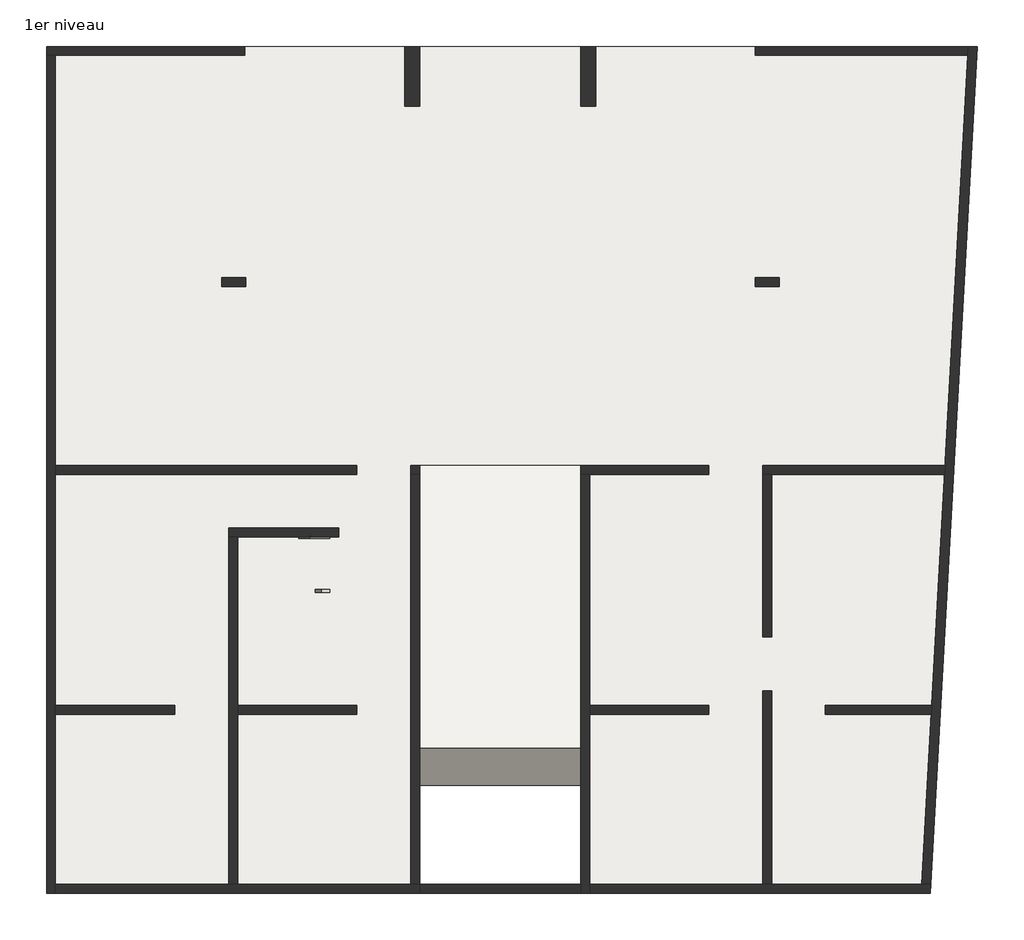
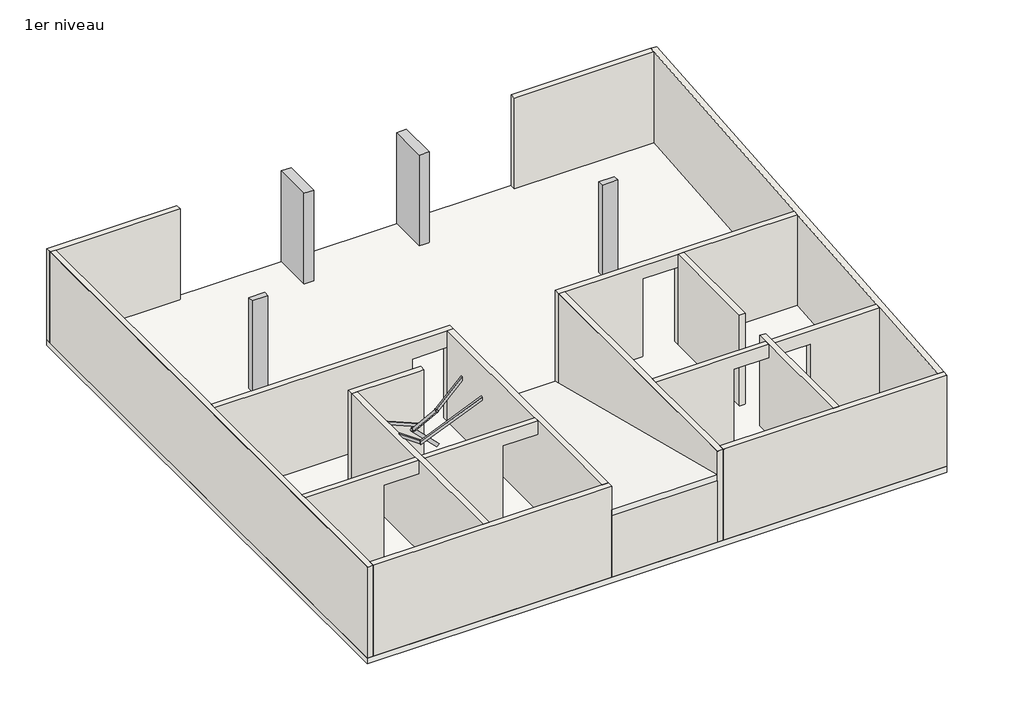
# One storey, incomplete: 20 walls, 4 columns, 2 railings, 2 slabs.
"""IFC4 building model written with IfcOpenShell, lengths in millimetres."""

from ifc_helpers import new_model, si_unit, frame, origin, place, context, project, spatial, polyline, outline, extrude, faceted_brep, transform, mapped, element, save
from components import railing_900_mm_58355f22, railing_900_mm_3c93f63a

model = new_model("IFC4")

# Units and contexts
model_context = context("Model", 3, world=origin())
ifc_project = project(units=[si_unit("LENGTHUNIT", "METRE", prefix="MILLI")], contexts=[model_context])

# Site, building, storey
site = spatial("IfcSite", under=ifc_project)
building = spatial("IfcBuilding", under=site)
storey = spatial("IfcBuildingStorey", under=building, Name="1er niveau", Elevation=-2625.0)

# Columns
placement = place(None, origin())
element("IfcColumn", 1, ObjectType="Béton - Rectangulaire - Poteau : 25 x 100", at=placement, inside=storey, context=model_context, shape_type="SweptSolid", body=[
    extrude(outline(polyline([(1919.9771325, 6266.7111972), (1919.9771325, 5266.7111972), (1669.9771325, 5266.7111972), (1669.9771325, 6266.7111972), (1919.9771325, 6266.7111972)])), frame((0.0, 0.0, -2625.0), z_axis=(0.0, 0.0, 1.0), x_axis=(1.0, 0.0, 0.0)), (0.0, 0.0, 1.0), 2455.0),
])
element("IfcColumn", 2, ObjectType="Béton - Rectangulaire - Poteau : 25 x 100", at=placement, inside=storey, context=model_context, shape_type="SweptSolid", body=[
    extrude(outline(polyline([(-1030.0228675, 6266.7111972), (-1030.0228675, 5266.7111972), (-1280.0228675, 5266.7111972), (-1280.0228675, 6266.7111972), (-1030.0228675, 6266.7111972)])), frame((0.0, 0.0, -2625.0), z_axis=(0.0, 0.0, 1.0), x_axis=(1.0, 0.0, 0.0)), (0.0, 0.0, 1.0), 2455.0),
])
element("IfcColumn", 3, ObjectType="Béton - Rectangulaire - Poteau : 40 x 15", at=placement, inside=storey, context=model_context, shape_type="SweptSolid", body=[
    extrude(outline(polyline([(-3945.3545284, 2391.7111972), (-3945.3545284, 2241.7111972), (-4345.3545284, 2241.7111972), (-4345.3545284, 2391.7111972), (-3945.3545284, 2391.7111972)])), frame((0.0, 0.0, -2625.0), z_axis=(0.0, 0.0, 1.0), x_axis=(1.0, 0.0, 0.0)), (0.0, 0.0, 1.0), 2455.0),
])
element("IfcColumn", 4, ObjectType="Béton - Rectangulaire - Poteau : 40 x 15", at=placement, inside=storey, context=model_context, shape_type="SweptSolid", body=[
    extrude(outline(polyline([(4995.5726427, 2391.7111972), (4995.5726427, 2241.7111972), (4595.5726427, 2241.7111972), (4595.5726427, 2391.7111972), (4995.5726427, 2391.7111972)])), frame((0.0, 0.0, -2625.0), z_axis=(0.0, 0.0, 1.0), x_axis=(1.0, 0.0, 0.0)), (0.0, 0.0, 1.0), 2455.0),
])

# Railings
railing_900_mm_shape = railing_900_mm_58355f22(model_context)
element("IfcRailing", 5, ObjectType="900 mm", at=placement, inside=storey, context=model_context, shape_type="MappedRepresentation", body=[
    mapped(railing_900_mm_shape, transform((0.0, 0.0, 0.0), x_axis=(1.0, 0.0, 0.0), y_axis=(0.0, 1.0, 0.0), z_axis=(0.0, 0.0, 1.0))),
])
railing_900_mm_2_shape = railing_900_mm_3c93f63a(model_context)
element("IfcRailing", 6, ObjectType="900 mm", at=placement, inside=storey, context=model_context, shape_type="MappedRepresentation", body=[
    mapped(railing_900_mm_2_shape, transform((0.0, 0.0, 0.0), x_axis=(1.0, 0.0, 0.0), y_axis=(0.0, 1.0, 0.0), z_axis=(0.0, 0.0, 1.0))),
])

# Slabs
element("IfcSlab", 7, ObjectType="Générique  160 mm", at=placement, inside=storey, context=model_context, shape_type="Brep", body=[
    faceted_brep([(8319.9771325, 6266.7111972, -2785.0), (7531.5087449, -7931.4125381, -2785.0), (-7280.0228675, -7931.4125381, -2785.0), (-7280.0228675, 6266.7111972, -2785.0), (-1030.0228675, -7783.2888028, -2785.0), (1669.9771325, -7783.2888028, -2785.0), (1669.9771325, -908.2888028, -2785.0), (-1030.0228675, -908.2888028, -2785.0), (8319.9771325, 6266.7111972, -2625.0), (1919.9771325, 6266.7111972, -2625.0), (1669.9771325, 6266.7111972, -2625.0), (-1030.0228675, 6266.7111972, -2625.0), (-1280.0228675, 6266.7111972, -2625.0), (-7280.0228675, 6266.7111972, -2625.0), (-7280.0228675, -7931.4125381, -2625.0), (7531.5087449, -7931.4125381, -2625.0), (-1030.0228675, -7783.2888028, -2625.0), (-1030.0228675, -908.2888028, -2625.0), (1669.9771325, -908.2888028, -2625.0), (1669.9771325, -7783.2888028, -2625.0)], [[[0, 1, 2, 3], [4, 5, 6, 7]], [[8, 9, 10, 11, 12, 13, 14, 15], [16, 17, 18, 19]], [[1, 0, 8, 15]], [[2, 1, 15, 14]], [[3, 2, 14, 13]], [[0, 3, 13, 12, 11, 10, 9, 8]], [[5, 4, 16, 19]], [[6, 5, 19, 18]], [[7, 6, 18, 17]], [[4, 7, 17, 16]]]),
])
element("IfcSlab", 8, ObjectType="Générique  160 mm", at=placement, inside=storey, context=model_context, shape_type="SweptSolid", body=[
    extrude(outline(polyline([(-7933.2888028, -965.0), (-7933.2888028, -805.0), (-758.2888028, -2625.0), (-758.2888028, -2785.0), (-7933.2888028, -965.0)])), frame((-1030.0228675, 0.0, 0.0), z_axis=(1.0, 0.0, 0.0), x_axis=(0.0, 1.0, 0.0)), (0.0, 0.0, 1.0), 2700.0),
])

# Walls
element("IfcWall", 9, ObjectType="Générique - 150 mm", at=placement, inside=storey, context=model_context, shape_type="Brep", body=[
    faceted_brep([(-7130.0228675, -908.2888028, -170.0), (-7130.0228675, -908.2888028, -2625.0), (-2080.0228675, -908.2888028, -2625.0), (-2080.0228675, -908.2888028, -625.0), (-1180.0228675, -908.2888028, -625.0), (-1180.0228675, -908.2888028, -2625.0), (-1030.0228675, -908.2888028, -2625.0), (-1030.0228675, -908.2888028, -170.0), (-1180.0228675, -908.2888028, -170.0), (-7130.0228675, -758.2888028, -2625.0), (-7130.0228675, -758.2888028, -170.0), (-1030.0228675, -758.2888028, -170.0), (-1030.0228675, -758.2888028, -2625.0), (-1180.0228675, -758.2888028, -2625.0), (-1180.0228675, -758.2888028, -625.0), (-2080.0228675, -758.2888028, -625.0), (-2080.0228675, -758.2888028, -2625.0)], [[[0, 1, 2, 3, 4, 5, 6, 7, 8]], [[9, 10, 11, 12, 13, 14, 15, 16]], [[1, 9, 16, 2]], [[12, 6, 5, 13]], [[1, 0, 10, 9]], [[4, 14, 13, 5]], [[15, 3, 2, 16]], [[14, 4, 3, 15]], [[7, 6, 12, 11]], [[0, 8, 7, 11, 10]]]),
])
element("IfcWall", 10, ObjectType="Générique - 150 mm", at=placement, inside=storey, context=model_context, shape_type="Brep", body=[
    faceted_brep([(-7280.0228675, 6116.7111972, -2625.0), (-7130.0228675, 6116.7111972, -2625.0), (-3955.0228675, 6116.7111972, -2625.0), (-3955.0228675, 6116.7111972, -170.0), (-7130.0228675, 6116.7111972, -170.0), (-7270.0228675, 6116.7111972, -170.0), (-7280.0228675, 6116.7111972, -170.0), (-7280.0228675, 6266.7111972, -2625.0), (-7280.0228675, 6266.7111972, -170.0), (-7270.0228675, 6266.7111972, -170.0), (-3955.0228675, 6266.7111972, -170.0), (-3955.0228675, 6266.7111972, -2625.0)], [[[0, 1, 2, 3, 4, 5, 6]], [[7, 8, 9, 10, 11]], [[2, 1, 0, 7, 11]], [[3, 2, 11, 10]], [[0, 6, 8, 7]], [[6, 5, 9, 8]], [[5, 4, 3, 10, 9]]]),
])
element("IfcWall", 11, ObjectType="Générique - 150 mm", at=placement, inside=storey, context=model_context, shape_type="Brep", body=[
    faceted_brep([(-3955.0228675, 6266.7111972, -2625.0), (-7280.0228675, 6266.7111972, -2625.0), (-7280.0228675, 6266.7111972, -170.0), (-7270.0228675, 6266.7111972, -170.0), (-3955.0228675, 6266.7111972, -170.0), (-3955.0228675, 6116.7111972, -2625.0), (-3955.0228675, 6116.7111972, -170.0), (-7130.0228675, 6116.7111972, -170.0), (-7270.0228675, 6116.7111972, -170.0), (-7280.0228675, 6116.7111972, -170.0), (-7280.0228675, 6116.7111972, -2625.0), (-7130.0228675, 6116.7111972, -2625.0)], [[[0, 1, 2, 3, 4]], [[5, 6, 7, 8, 9, 10, 11]], [[1, 0, 5, 11, 10]], [[0, 4, 6, 5]], [[2, 1, 10, 9]], [[3, 2, 9, 8]], [[4, 3, 8, 7, 6]]]),
])
element("IfcWall", 12, ObjectType="Générique - 150 mm", at=placement, inside=storey, context=model_context, shape_type="Brep", body=[
    faceted_brep([(-7280.0228675, 6116.7111972, -2625.0), (-7280.0228675, -7933.2888028, -2625.0), (-7280.0228675, -7933.2888028, -170.0), (-7280.0228675, 6116.7111972, -170.0), (-7130.0228675, 6116.7111972, -2625.0), (-7130.0228675, 6116.7111972, -170.0), (-7130.0228675, -758.2888028, -170.0), (-7130.0228675, -908.2888028, -170.0), (-7130.0228675, -4783.2888028, -170.0), (-7130.0228675, -4933.2888028, -170.0), (-7130.0228675, -7783.2888028, -170.0), (-7130.0228675, -7933.2888028, -170.0), (-7130.0228675, -7933.2888028, -2625.0), (-7130.0228675, -7783.2888028, -2625.0), (-7130.0228675, -4933.2888028, -2625.0), (-7130.0228675, -4783.2888028, -2625.0), (-7130.0228675, -908.2888028, -2625.0), (-7130.0228675, -758.2888028, -2625.0), (-7270.0228675, 6116.7111972, -170.0), (-7270.0228675, -7933.2888028, -170.0)], [[[0, 1, 2, 3]], [[4, 5, 6, 7, 8, 9, 10, 11, 12, 13, 14, 15, 16, 17]], [[1, 0, 4, 17, 16, 15, 14, 13, 12]], [[0, 3, 18, 5, 4]], [[2, 1, 12, 11, 19]], [[3, 2, 19, 18]], [[19, 11, 10, 9, 8, 7, 6, 5, 18]]]),
])
element("IfcWall", 13, ObjectType="Générique - 150 mm", at=placement, inside=storey, context=model_context, shape_type="Brep", body=[
    faceted_brep([(-7130.0228675, -7933.2888028, -2625.0), (-1030.0228675, -7933.2888028, -2625.0), (-1030.0228675, -7933.2888028, -970.067174), (-1030.0228675, -7933.2888028, -170.0), (-7130.0228675, -7933.2888028, -170.0), (-7130.0228675, -7783.2888028, -2625.0), (-7130.0228675, -7783.2888028, -170.0), (-4230.0228675, -7783.2888028, -170.0), (-4080.0228675, -7783.2888028, -170.0), (-1180.0228675, -7783.2888028, -170.0), (-1030.0228675, -7783.2888028, -170.0), (-1030.0228675, -7783.2888028, -970.067174), (-1030.0228675, -7783.2888028, -2625.0), (-1180.0228675, -7783.2888028, -2625.0), (-4080.0228675, -7783.2888028, -2625.0), (-4230.0228675, -7783.2888028, -2625.0)], [[[0, 1, 2, 3, 4]], [[5, 6, 7, 8, 9, 10, 11, 12, 13, 14, 15]], [[1, 0, 5, 15, 14, 13, 12]], [[0, 4, 6, 5]], [[1, 12, 11, 10, 3, 2]], [[4, 3, 10, 9, 8, 7, 6]]]),
])
element("IfcWall", 14, ObjectType="Générique - 150 mm", at=placement, inside=storey, context=model_context, shape_type="Brep", body=[
    faceted_brep([(-1030.0228675, -7783.2888028, -170.0), (-1030.0228675, -7783.2888028, -2625.0), (-1030.0228675, -908.2888028, -2625.0), (-1030.0228675, -908.2888028, -170.0), (-1030.0228675, -911.4125381, -170.0), (-1180.0228675, -7783.2888028, -2625.0), (-1180.0228675, -7783.2888028, -170.0), (-1180.0228675, -4933.2888028, -170.0), (-1180.0228675, -4783.2888028, -170.0), (-1180.0228675, -908.2888028, -170.0), (-1180.0228675, -908.2888028, -625.0), (-1180.0228675, -908.2888028, -2625.0)], [[[0, 1, 2, 3, 4]], [[5, 6, 7, 8, 9, 10, 11]], [[2, 1, 5, 11]], [[0, 6, 5, 1]], [[3, 2, 11, 10, 9]], [[0, 4, 3, 9, 8, 7, 6]]]),
])
element("IfcWall", 15, ObjectType="Générique - 150 mm", at=placement, inside=storey, context=model_context, shape_type="Brep", body=[
    faceted_brep([(-2380.0228675, -1808.2888028, -2625.0), (-4230.0228675, -1808.2888028, -2625.0), (-4230.0228675, -1808.2888028, -170.0), (-2380.0228675, -1808.2888028, -170.0), (-2380.0228675, -1958.2888028, -2625.0), (-2380.0228675, -1958.2888028, -170.0), (-2530.0228675, -1958.2888028, -170.0), (-4080.0228675, -1958.2888028, -170.0), (-4230.0228675, -1958.2888028, -170.0), (-4230.0228675, -1958.2888028, -2625.0), (-4080.0228675, -1958.2888028, -2625.0)], [[[0, 1, 2, 3]], [[4, 5, 6, 7, 8, 9, 10]], [[1, 0, 4, 10, 9]], [[0, 3, 5, 4]], [[2, 1, 9, 8]], [[3, 2, 8, 7, 6, 5]]]),
])
element("IfcWall", 16, ObjectType="Générique - 150 mm", at=placement, inside=storey, context=model_context, shape_type="Brep", body=[
    faceted_brep([(-4230.0228675, -1958.2888028, -2625.0), (-4230.0228675, -7783.2888028, -2625.0), (-4230.0228675, -7783.2888028, -170.0), (-4230.0228675, -4933.2888028, -170.0), (-4230.0228675, -4783.2888028, -170.0), (-4230.0228675, -1958.2888028, -170.0), (-4080.0228675, -1958.2888028, -2625.0), (-4080.0228675, -1958.2888028, -170.0), (-4080.0228675, -4783.2888028, -170.0), (-4080.0228675, -4933.2888028, -170.0), (-4080.0228675, -7783.2888028, -170.0), (-4080.0228675, -7783.2888028, -2625.0), (-4080.0228675, -4933.2888028, -2625.0), (-4080.0228675, -4783.2888028, -2625.0)], [[[0, 1, 2, 3, 4, 5]], [[6, 7, 8, 9, 10, 11, 12, 13]], [[1, 0, 6, 13, 12, 11]], [[0, 5, 7, 6]], [[2, 1, 11, 10]], [[5, 4, 3, 2, 10, 9, 8, 7]]]),
])
element("IfcWall", 17, ObjectType="Générique - 150 mm", at=placement, inside=storey, context=model_context, shape_type="SweptSolid", body=[
    extrude(outline(polyline([(-170.0, -7130.0228675), (-2625.0, -7130.0228675), (-2625.0, -5130.0228675), (-525.0, -5130.0228675), (-525.0, -4230.0228675), (-170.0, -4230.0228675), (-170.0, -7130.0228675)])), frame((0.0, -4933.2888028, 0.0), z_axis=(0.0, 1.0, 0.0), x_axis=(0.0, 0.0, 1.0)), (0.0, 0.0, 1.0), 150.0),
])
element("IfcWall", 18, ObjectType="Générique - 150 mm", at=placement, inside=storey, context=model_context, shape_type="Brep", body=[
    faceted_brep([(-4080.0228675, -4933.2888028, -170.0), (-4080.0228675, -4933.2888028, -2625.0), (-2080.0228675, -4933.2888028, -2625.0), (-2080.0228675, -4933.2888028, -525.0), (-1180.0228675, -4933.2888028, -525.0), (-1180.0228675, -4933.2888028, -170.0), (-4080.0228675, -4783.2888028, -2625.0), (-4080.0228675, -4783.2888028, -170.0), (-2530.0228675, -4783.2888028, -170.0), (-1180.0228675, -4783.2888028, -170.0), (-1180.0228675, -4783.2888028, -525.0), (-2080.0228675, -4783.2888028, -525.0), (-2080.0228675, -4783.2888028, -2625.0)], [[[0, 1, 2, 3, 4, 5]], [[6, 7, 8, 9, 10, 11, 12]], [[1, 6, 12, 2]], [[1, 0, 7, 6]], [[9, 5, 4, 10]], [[11, 3, 2, 12]], [[3, 11, 10, 4]], [[7, 0, 5, 9, 8]]]),
])
element("IfcWall", 19, ObjectType="Générique - 150 mm", at=placement, inside=storey, context=model_context, shape_type="Brep", body=[
    faceted_brep([(4720.6357207, -908.2888028, -525.0), (4720.6357207, -908.2888028, -2625.0), (4870.6357207, -908.2888028, -2625.0), (7771.2943089, -908.2888028, -2625.0), (7771.2943089, -908.2888028, -170.0), (4870.6357207, -908.2888028, -170.0), (4720.6357207, -908.2888028, -170.0), (1819.9771325, -908.2888028, -170.0), (1669.9771325, -908.2888028, -170.0), (1669.9771325, -908.2888028, -2625.0), (1819.9771325, -908.2888028, -2625.0), (3820.6357207, -908.2888028, -2625.0), (3820.6357207, -908.2888028, -525.0), (7779.6243009, -758.2888028, -2625.0), (4720.6357207, -758.2888028, -2625.0), (4720.6357207, -758.2888028, -525.0), (3820.6357207, -758.2888028, -525.0), (3820.6357207, -758.2888028, -2625.0), (1669.9771325, -758.2888028, -2625.0), (1669.9771325, -758.2888028, -170.0), (7779.6243009, -758.2888028, -170.0)], [[[0, 1, 2, 3, 4, 5, 6, 7, 8, 9, 10, 11, 12]], [[13, 14, 15, 16, 17, 18, 19, 20]], [[11, 10, 9, 18, 17]], [[3, 2, 1, 14, 13]], [[9, 8, 19, 18]], [[4, 3, 13, 20]], [[17, 16, 12, 11]], [[15, 14, 1, 0]], [[16, 15, 0, 12]], [[8, 7, 6, 5, 4, 20, 19]]]),
])
element("IfcWall", 20, ObjectType="Générique - 150 mm", at=placement, inside=storey, context=model_context, shape_type="Brep", body=[
    faceted_brep([(1669.9771325, -908.2888028, -2625.0), (1669.9771325, -7783.2888028, -2625.0), (1669.9771325, -7933.2888028, -2625.0), (1669.9771325, -7933.2888028, -970.067174), (1669.9771325, -7933.2888028, -170.0), (1669.9771325, -7931.4125381, -170.0), (1669.9771325, -908.2888028, -170.0), (1819.9771325, -908.2888028, -2625.0), (1819.9771325, -908.2888028, -170.0), (1819.9771325, -4783.2888028, -170.0), (1819.9771325, -4933.2888028, -170.0), (1819.9771325, -7783.2888028, -170.0), (1819.9771325, -7931.4125381, -170.0), (1819.9771325, -7933.2888028, -170.0), (1819.9771325, -7933.2888028, -2625.0), (1819.9771325, -7783.2888028, -2625.0), (1819.9771325, -4933.2888028, -2625.0), (1819.9771325, -4783.2888028, -2625.0), (1671.5087449, -908.2888028, -170.0), (1671.5087449, -7933.2888028, -170.0), (1671.5087449, -7931.4125381, -170.0), (1671.5087449, -911.4125381, -170.0)], [[[0, 1, 2, 3, 4, 5, 6]], [[7, 8, 9, 10, 11, 12, 13, 14, 15, 16, 17]], [[2, 1, 0, 7, 17, 16, 15, 14]], [[0, 6, 18, 8, 7]], [[2, 14, 13, 19, 4, 3]], [[6, 5, 20, 21, 18]], [[19, 13, 12, 20]], [[5, 4, 19, 20]], [[20, 12, 11, 10, 9, 8, 18, 21]]]),
])
element("IfcWall", 21, ObjectType="Générique - 150 mm", at=placement, inside=storey, context=model_context, shape_type="Brep", body=[
    faceted_brep([(1819.9771325, -7933.2888028, -170.0), (1819.9771325, -7933.2888028, -2625.0), (7531.4041314, -7933.2888028, -2625.0), (7531.4041314, -7933.2888028, -170.0), (1819.9771325, -7783.2888028, -2625.0), (1819.9771325, -7783.2888028, -170.0), (4720.5726427, -7783.2888028, -170.0), (4870.5726427, -7783.2888028, -170.0), (7389.5030056, -7783.2888028, -170.0), (7539.7345418, -7783.2888028, -170.0), (7539.7341234, -7783.2888028, -2625.0), (7389.5030056, -7783.2888028, -2625.0), (4870.5726427, -7783.2888028, -2625.0), (4720.5726427, -7783.2888028, -2625.0), (7531.5083278, -7931.4125149, -170.0), (1819.9771325, -7931.4125381, -170.0)], [[[0, 1, 2, 3]], [[4, 5, 6, 7, 8, 9, 10, 11, 12, 13]], [[2, 1, 4, 13, 12, 11, 10]], [[3, 2, 10, 9, 14]], [[0, 15, 5, 4, 1]], [[0, 3, 14, 15]], [[14, 9, 8, 7, 6, 5, 15]]]),
])
element("IfcWall", 22, ObjectType="Générique - 150 mm", at=placement, inside=storey, context=model_context, shape_type="Brep", body=[
    faceted_brep([(7539.7341234, -7783.2888028, -2625.0), (8319.9767141, 6266.7111972, -2625.0), (8319.9767141, 6266.7111972, -170.0), (7539.7341234, -7783.2888028, -170.0), (7389.5030056, -7783.2888028, -2625.0), (7389.5030056, -7783.2888028, -170.0), (7547.772855, -4933.2888028, -170.0), (7556.102847, -4783.2888028, -170.0), (7771.2943089, -908.2888028, -170.0), (7779.6243009, -758.2888028, -170.0), (8161.4156042, 6116.7111972, -170.0), (8169.7455963, 6266.7111972, -170.0), (8169.7455963, 6266.7111972, -2625.0), (8161.4156042, 6116.7111972, -2625.0), (7779.6243009, -758.2888028, -2625.0), (7771.2943089, -908.2888028, -2625.0), (7556.102847, -4783.2888028, -2625.0), (7547.772855, -4933.2888028, -2625.0)], [[[0, 1, 2, 3]], [[4, 5, 6, 7, 8, 9, 10, 11, 12, 13, 14, 15, 16, 17]], [[1, 0, 4, 17, 16, 15, 14, 13, 12]], [[0, 3, 5, 4]], [[2, 1, 12, 11]], [[3, 2, 11, 10, 9, 8, 7, 6, 5]]]),
])
element("IfcWall", 23, ObjectType="Générique - 150 mm", at=placement, inside=storey, context=model_context, shape_type="SweptSolid", body=[
    extrude(outline(polyline([(4595.5726427, 6266.7111972), (8169.7455963, 6266.7111972), (8161.4156042, 6116.7111972), (4595.5726427, 6116.7111972), (4595.5726427, 6266.7111972)])), frame((0.0, 0.0, -2625.0), z_axis=(0.0, 0.0, 1.0), x_axis=(1.0, 0.0, 0.0)), (0.0, 0.0, 1.0), 2455.0),
])
element("IfcWall", 24, ObjectType="Générique - 150 mm", at=placement, inside=storey, context=model_context, shape_type="Brep", body=[
    faceted_brep([(4720.6357207, -908.2888028, -2625.0), (4720.6357207, -3628.2888028, -2625.0), (4720.6357207, -3628.2888028, -170.0), (4720.6357207, -908.2888028, -170.0), (4720.6357207, -908.2888028, -525.0), (4870.6357207, -908.2888028, -2625.0), (4870.6357207, -908.2888028, -170.0), (4870.6357207, -3628.2888028, -170.0), (4870.6357207, -3628.2888028, -2625.0)], [[[0, 1, 2, 3, 4]], [[5, 6, 7, 8]], [[1, 0, 5, 8]], [[2, 1, 8, 7]], [[0, 4, 3, 6, 5]], [[3, 2, 7, 6]]]),
])
element("IfcWall", 25, ObjectType="Générique - 150 mm", at=placement, inside=storey, context=model_context, shape_type="Brep", body=[
    faceted_brep([(4720.5726427, -4533.2888028, -2625.0), (4720.5726427, -7783.2888028, -2625.0), (4720.5726427, -7783.2888028, -170.0), (4720.5726427, -4933.2888028, -170.0), (4720.5726427, -4783.2888028, -170.0), (4720.5726427, -4533.2888028, -170.0), (4870.5726427, -4533.2888028, -2625.0), (4870.5726427, -4533.2888028, -170.0), (4870.5726427, -4783.2888028, -170.0), (4870.5726427, -4933.2888028, -170.0), (4870.5726427, -7783.2888028, -170.0), (4870.5726427, -7783.2888028, -2625.0)], [[[0, 1, 2, 3, 4, 5]], [[6, 7, 8, 9, 10, 11]], [[1, 0, 6, 11]], [[0, 5, 7, 6]], [[2, 1, 11, 10]], [[5, 4, 3, 2, 10, 9, 8, 7]]]),
])
element("IfcWall", 26, ObjectType="Générique - 150 mm", at=placement, inside=storey, context=model_context, shape_type="SweptSolid", body=[
    extrude(outline(polyline([(-170.0, 1819.9771325), (-2625.0, 1819.9771325), (-2625.0, 3820.5726427), (-525.0, 3820.5726427), (-525.0, 4720.5726427), (-170.0, 4720.5726427), (-170.0, 1819.9771325)])), frame((0.0, -4933.2888028, 0.0), z_axis=(0.0, 1.0, 0.0), x_axis=(0.0, 0.0, 1.0)), (0.0, 0.0, 1.0), 150.0),
])
element("IfcWall", 27, ObjectType="Générique - 150 mm", at=placement, inside=storey, context=model_context, shape_type="Brep", body=[
    faceted_brep([(7547.772855, -4933.2888028, -2625.0), (7547.772855, -4933.2888028, -170.0), (4870.5726427, -4933.2888028, -170.0), (4870.5726427, -4933.2888028, -525.0), (5770.5726427, -4933.2888028, -525.0), (5770.5726427, -4933.2888028, -2625.0), (7556.102847, -4783.2888028, -170.0), (7556.102847, -4783.2888028, -2625.0), (5770.5726427, -4783.2888028, -2625.0), (5770.5726427, -4783.2888028, -525.0), (4870.5726427, -4783.2888028, -525.0), (4870.5726427, -4783.2888028, -170.0)], [[[0, 1, 2, 3, 4, 5]], [[6, 7, 8, 9, 10, 11]], [[7, 0, 5, 8]], [[1, 0, 7, 6]], [[2, 11, 10, 3]], [[4, 9, 8, 5]], [[9, 4, 3, 10]], [[2, 1, 6, 11]]]),
])
element("IfcWall", 28, ObjectType="Générique - 150 mm", at=placement, inside=storey, context=model_context, shape_type="SweptSolid", body=[
    extrude(outline(polyline([(1669.9771325, -7933.2888028), (-1030.0228675, -7933.2888028), (-1030.0228675, -7783.2888028), (1669.9771325, -7783.2888028), (1669.9771325, -7933.2888028)])), frame((0.0, 0.0, -2625.0), z_axis=(0.0, 0.0, 1.0), x_axis=(1.0, 0.0, 0.0)), (0.0, 0.0, 1.0), 1654.932826),
])

save(model, "model.ifc")
